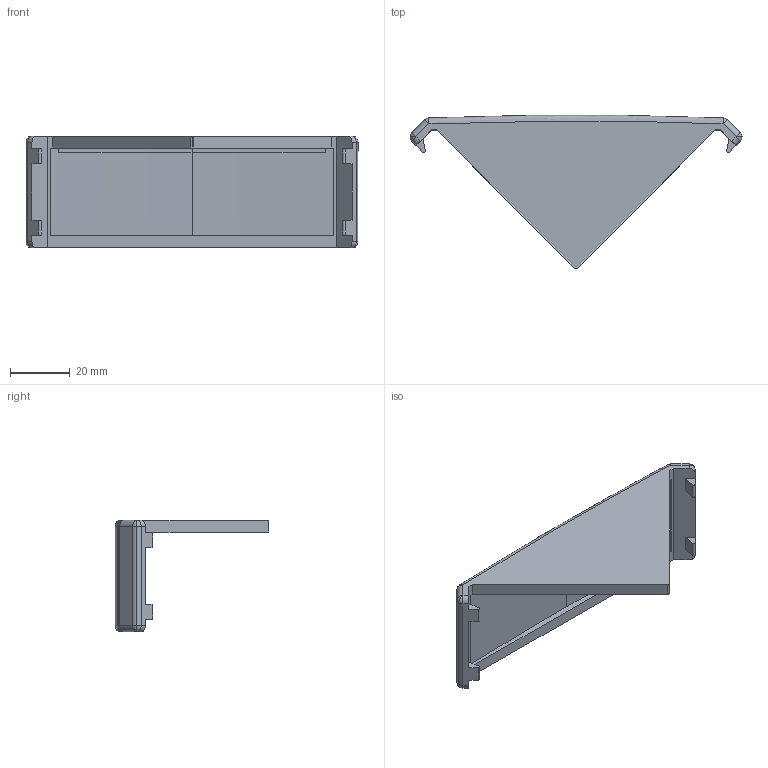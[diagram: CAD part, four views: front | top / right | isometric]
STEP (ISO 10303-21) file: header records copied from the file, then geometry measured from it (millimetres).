
FILE_DESCRIPTION (( 'STEP AP214' ), '1' );
FILE_NAME ('Transept Giltec-WAK8040AL.STEP', '2018-01-26T09:54:25', ( '' ), ( '' ), 'SwSTEP 2.0', 'SolidWorks 2018', '' );
FILE_SCHEMA (( 'AUTOMOTIVE_DESIGN' ));
Length unit declared in the file: millimetre
Products named in the file (1): Transept Giltec-WAK8040AL
Bounding box: 111.32 x 51.39 x 37.5 mm (x, y, z)
Volume: 23392.3 mm3; surface area: 15034.5 mm2
Topology: 1 solids, 1 shells, 70 faces, 186 edges, 106 vertices
Faces by surface type: plane 30, cylinder 26, bspline 14
Entity records: 2277 total; most frequent: CARTESIAN_POINT 593, DIRECTION 350, ORIENTED_EDGE 348, EDGE_CURVE 174, AXIS2_PLACEMENT_3D 121, LINE 108, VECTOR 108, VERTEX_POINT 106
